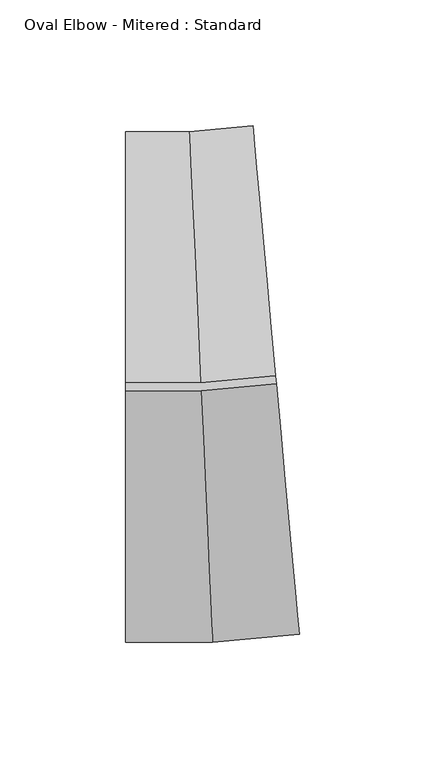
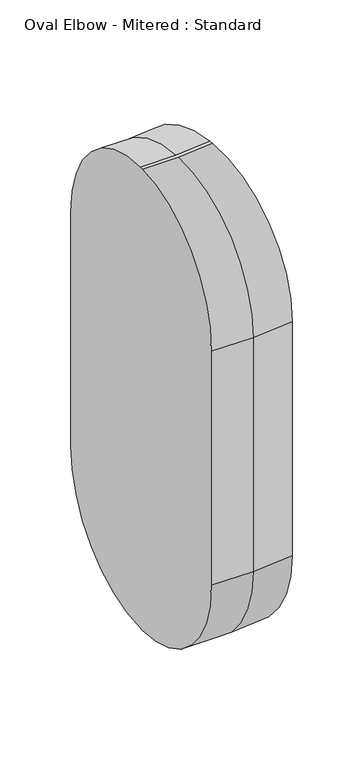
"""IFC4 building model written with IfcOpenShell, lengths in millimetres: duct fitting geometry, Oval Elbow - Mitered : Standard."""

import ifcopenshell
import ifcopenshell.guid

model = None  # the IFC model being written
_history = None  # IfcOwnerHistory: only IFC2X3 demands one
_inside = {}  # id of a spatial element -> (the spatial element, [elements in it])
_under = {}  # id of a project, library or spatial element -> (it, [spatial elements below it])
_declared = {}  # id of a project -> (the project, [libraries it declares])
_typed = {}  # id of a type object -> (the type object, [elements of that type])
_made_of = {}  # id of a material, layer set ... -> (it, [elements and type objects made of it])


def new_model(schema):
    """Start an empty IFC model of exactly this schema.

    Asked for "IFC4X3", IfcOpenShell would pick the latest addendum, in which some entities
    have other attributes; the version numbers below select the first issue.
    IFC2X3 requires an IfcOwnerHistory on every rooted entity: one is made here for all.
    """
    global model, _history
    if schema == "IFC4X3":
        model = ifcopenshell.file(schema_version=(4, 3, 0, 0))
    else:
        model = ifcopenshell.file(schema=schema)
    _inside.clear()
    _under.clear()
    _declared.clear()
    _typed.clear()
    _made_of.clear()
    _history = None
    if model.schema == "IFC2X3":
        org = make("IfcOrganization", Name="unknown")
        user = make(
            "IfcPersonAndOrganization",
            ThePerson=make("IfcPerson", FamilyName="unknown"),
            TheOrganization=org,
        )
        app = make(
            "IfcApplication",
            ApplicationDeveloper=org,
            Version="unknown",
            ApplicationFullName="unknown",
            ApplicationIdentifier="unknown",
        )
        _history = make(
            "IfcOwnerHistory",
            OwningUser=user,
            OwningApplication=app,
            ChangeAction="ADDED",
            CreationDate=0,
        )
    return model


def make(cls, **values):
    """One entity of the class cls with the attributes given. An attribute that is None is left unset."""
    return model.create_entity(
        cls, **{name: value for name, value in values.items() if value is not None}
    )


def rooted(cls, **values):
    """An entity with a GlobalId (a new one), such as an element, a storey or a relation."""
    return make(cls, GlobalId=ifcopenshell.guid.new(), OwnerHistory=_history, **values)


def si_unit(unit_type, name, prefix=None):
    """IfcSIUnit, for example si_unit("LENGTHUNIT", "METRE", prefix="MILLI")."""
    return make("IfcSIUnit", UnitType=unit_type, Prefix=prefix, Name=name)


def assignment(units):
    """IfcUnitAssignment: the units of a project."""
    return None if units is None else make("IfcUnitAssignment", Units=units)


def point(xyz):
    """IfcCartesianPoint."""
    return None if xyz is None else make("IfcCartesianPoint", Coordinates=xyz)


def direction(xyz):
    """IfcDirection."""
    return None if xyz is None else make("IfcDirection", DirectionRatios=xyz)


def frame(location, z_axis=None, x_axis=None):
    """IfcAxis2Placement3D, a coordinate frame: its origin and axes. An axis left out is left unset."""
    return make(
        "IfcAxis2Placement3D",
        Location=point(location),
        Axis=direction(z_axis),
        RefDirection=direction(x_axis),
    )


def origin():
    """The frame at (0, 0, 0) with its axes left unset."""
    return frame((0.0, 0.0, 0.0))


def place(relative_to, where):
    """IfcLocalPlacement: puts the frame where relative to a parent placement (None: the world)."""
    return make(
        "IfcLocalPlacement", PlacementRelTo=relative_to, RelativePlacement=where
    )


def context(
    kind, dimensions, precision=None, world=None, true_north=None, identifier=None
):
    """IfcGeometricRepresentationContext, for example the 3D "Model" context."""
    return make(
        "IfcGeometricRepresentationContext",
        ContextIdentifier=identifier,
        ContextType=kind,
        CoordinateSpaceDimension=dimensions,
        Precision=precision,
        WorldCoordinateSystem=world,
        TrueNorth=true_north,
    )


def project(units=None, contexts=None):
    """IfcProject with its units and contexts."""
    return rooted(
        "IfcProject",
        Name="project",
        RepresentationContexts=contexts,
        UnitsInContext=assignment(units),
    )


def spatial(cls, under=None, at=None, **own):
    """A site, building, storey or space (cls), placed at a placement, below another one or the project."""
    s = rooted(cls, ObjectPlacement=at, **own)
    if under is not None:
        _under.setdefault(under.id(), (under, []))[1].append(s)
    return s


def circle_curve(where, radius):
    """IfcCircle in the frame where."""
    return make("IfcCircle", Position=where, Radius=radius)


def ellipse_curve(where, semi_axis1, semi_axis2):
    """IfcEllipse in the frame where."""
    return make(
        "IfcEllipse", Position=where, SemiAxis1=semi_axis1, SemiAxis2=semi_axis2
    )


def shape(context_of_items, identifier, shape_type, items):
    """IfcShapeRepresentation: the items that make up one representation, for example the "Body"."""
    return make(
        "IfcShapeRepresentation",
        ContextOfItems=context_of_items,
        RepresentationIdentifier=identifier,
        RepresentationType=shape_type,
        Items=items,
    )


def source(mapping_origin, context_of_items, identifier, shape_type, items):
    """IfcRepresentationMap: a shape defined once, which mapped items show again and again."""
    return make(
        "IfcRepresentationMap",
        MappingOrigin=mapping_origin,
        MappedRepresentation=shape(context_of_items, identifier, shape_type, items),
    )


def transform(
    local_origin,
    x_axis=None,
    y_axis=None,
    z_axis=None,
    scale=None,
    scale2=None,
    scale3=None,
    uniform=True,
):
    """IfcCartesianTransformationOperator3D, or its non-uniform kind. x_axis, y_axis, z_axis: its Axis1, 2, 3."""
    if uniform:
        return make(
            "IfcCartesianTransformationOperator3D",
            Axis1=direction(x_axis),
            Axis2=direction(y_axis),
            LocalOrigin=point(local_origin),
            Scale=scale,
            Axis3=direction(z_axis),
        )
    return make(
        "IfcCartesianTransformationOperator3DnonUniform",
        Axis1=direction(x_axis),
        Axis2=direction(y_axis),
        LocalOrigin=point(local_origin),
        Scale=scale,
        Axis3=direction(z_axis),
        Scale2=scale2,
        Scale3=scale3,
    )


def mapped(mapping_source, mapping_target):
    """IfcMappedItem: shows the shape of a source again, moved by a transform."""
    return make(
        "IfcMappedItem", MappingSource=mapping_source, MappingTarget=mapping_target
    )


def made_of(thing, what):
    """Note that an element or type object is made of a material, layer set ...; save() writes the relation."""
    if what is not None:
        _made_of.setdefault(what.id(), (what, []))[1].append(thing)
    return thing


def element(
    cls,
    number,
    at=None,
    inside=None,
    cuts=None,
    type_object=None,
    material=None,
    context=None,
    identifier="Body",
    shape_type=None,
    held_by="IfcProductDefinitionShape",
    body=None,
    shapes=None,
    **own,
):
    """One element of the class cls, such as IfcWall. Its Tag is "e" and its number.

    at: its placement. inside: the storey or other place that contains it. cuts: it is an
    opening in that element (IfcRelVoidsElement). A single representation is given by context,
    identifier, shape_type and body (its items); several are given by shapes. held_by: the class
    of the entity that holds the representations. save() writes the other relations.
    """
    e = rooted(cls, Tag="e%d" % number, ObjectPlacement=at, **own)
    if body is not None:
        shapes = [shape(context, identifier, shape_type, body)]
    if shapes is not None:
        e.Representation = make(held_by, Representations=shapes)
    if inside is not None:
        _inside.setdefault(inside.id(), (inside, []))[1].append(e)
    if cuts is not None:
        rooted(
            "IfcRelVoidsElement", RelatingBuildingElement=cuts, RelatedOpeningElement=e
        )
    if type_object is not None:
        _typed.setdefault(type_object.id(), (type_object, []))[1].append(e)
    return made_of(e, material)


def aggregate(whole, parts):
    """IfcRelAggregates: a whole, such as a stair, and the parts it consists of."""
    return rooted("IfcRelAggregates", RelatingObject=whole, RelatedObjects=parts)


def save(model, path):
    """Write the relations noted so far, then the file.

    IfcRelAggregates (storeys below a building ...), IfcRelContainedInSpatialStructure (elements
    in a storey), IfcRelDefinesByType, IfcRelAssociatesMaterial and IfcRelDeclares: one each for
    every whole, place, type object, material and project.
    """
    for whole, parts in _under.values():
        aggregate(whole, parts)
    for where, things in _inside.values():
        rooted(
            "IfcRelContainedInSpatialStructure",
            RelatedElements=things,
            RelatingStructure=where,
        )
    for kind, things in _typed.values():
        rooted("IfcRelDefinesByType", RelatedObjects=things, RelatingType=kind)
    for what, things in _made_of.values():
        rooted("IfcRelAssociatesMaterial", RelatedObjects=things, RelatingMaterial=what)
    for by, libraries in _declared.values():
        rooted("IfcRelDeclares", RelatingContext=by, RelatedDefinitions=libraries)
    model.write(path)


def plane_surface(at):
    """IfcPlane: the flat surface through the origin of the frame at, square to its z axis."""
    return make("IfcPlane", Position=at)


def cylinder_surface(at, radius):
    """IfcCylindricalSurface: all points at the distance radius from the z axis of the frame at."""
    return make("IfcCylindricalSurface", Position=at, Radius=radius)


def advanced_brep(points, edges, surfaces, faces):
    """IfcAdvancedBrep: a solid bounded by faces that lie on surfaces and meet in shared edges.

    An edge is (start, end): straight between two places in points (the first is 0);
    or (start, end, curve); or (start, end, curve, False) where it runs against its curve.
    A face is (place in surfaces, loops), or (place, loops, False) where it looks against
    its surface's normal. A loop lists edges by number (the first is 1), with a minus sign
    where the edge is run from its end to its start. The first loop is the outer one.
    """
    corners = [point(p) for p in points]
    vertices = [make("IfcVertexPoint", VertexGeometry=c) for c in corners]
    made = []
    for start, end, *more in edges:
        made.append(
            make(
                "IfcEdgeCurve",
                EdgeStart=vertices[start],
                EdgeEnd=vertices[end],
                EdgeGeometry=more[0] if more else make("IfcPolyline", Points=[corners[start], corners[end]]),
                SameSense=more[1] if len(more) > 1 else True,
            )
        )
    hull = []
    for where, loops, *sense in faces:
        bounds = []
        for j, loop in enumerate(loops):
            ring = [make("IfcOrientedEdge", EdgeElement=made[abs(k) - 1], Orientation=k > 0) for k in loop]
            bounds.append(
                make(
                    "IfcFaceOuterBound" if j == 0 else "IfcFaceBound",
                    Bound=make("IfcEdgeLoop", EdgeList=ring),
                    Orientation=True,
                )
            )
        hull.append(make("IfcAdvancedFace", Bounds=bounds, FaceSurface=surfaces[where], SameSense=sense[0] if sense else True))
    return make("IfcAdvancedBrep", Outer=make("IfcClosedShell", CfsFaces=hull))


def oval_elbow_mitered_standard_605f781d(model_context):
    return source(origin(), model_context, "Body", "AdvancedBrep", [
        advanced_brep(
        [(-30.0333546, -1.5875, 203.2), (-30.0333546, 1.5875, 203.2), (-30.0333546, 101.6, 103.1875), (-30.0333546, 101.6, -103.1875), (-30.0333546, 1.5875, -203.2), (-30.0333546, -1.5875, -203.2), (-30.0333546, -101.6, -103.1875), (-30.0333546, -101.6, 103.1875), (0.0723962, -1.5875, 203.2), (30.0531841, 1.1526795, 203.2), (29.7642005, 4.3145008, 203.2), (-0.0723962, 1.5875, 203.2), (-4.6333546, 101.6, 103.1875), (-4.6333546, 101.6, -103.1875), (-0.0723962, 1.5875, -203.2), (29.7642005, 4.3145008, -203.2), (30.0531841, 1.1526795, -203.2), (0.0723962, -1.5875, -203.2), (4.6333546, -101.6, -103.1875), (4.6333546, -101.6, 103.1875), (39.1561694, -98.444689, 103.1875), (39.1561694, -98.444689, -103.1875), (20.6612152, 103.9118693, -103.1875), (20.6612152, 103.9118693, 103.1875)],
        [
            (0, 1),
            (1, 2, circle_curve(frame((-30.0333546, 1.5875, 103.1875), z_axis=(-1.0, 0.0, 0.0), x_axis=(0.0, 1.0, 0.0)), 100.0125)),
            (2, 3),
            (3, 4, circle_curve(frame((-30.0333546, 1.5875, -103.1875), z_axis=(-1.0, 0.0, 0.0), x_axis=(0.0, 1.0, 0.0)), 100.0125)),
            (4, 5),
            (5, 6, circle_curve(frame((-30.0333546, -1.5875, -103.1875), z_axis=(-1.0, 0.0, 0.0), x_axis=(0.0, 1.0, 0.0)), 100.0125)),
            (6, 7),
            (7, 0, circle_curve(frame((-30.0333546, -1.5875, 103.1875), z_axis=(-1.0, 0.0, 0.0), x_axis=(0.0, 1.0, 0.0)), 100.0125)),
            (0, 8),
            (8, 9),
            (9, 10),
            (10, 11),
            (11, 1),
            (11, 12, ellipse_curve(frame((-0.0723962, 1.5875, 103.1875), z_axis=(-0.9989617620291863, -0.045556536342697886, 0.0), x_axis=(-0.045556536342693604, 0.9989617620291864, 0.0)), 100.1164447, 100.0125)),
            (12, 2),
            (12, 13),
            (13, 3),
            (13, 14, ellipse_curve(frame((-0.0723962, 1.5875, -103.1875), z_axis=(-0.9989617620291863, -0.045556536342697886, 0.0), x_axis=(-0.045556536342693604, 0.9989617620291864, 0.0)), 100.1164447, 100.0125)),
            (14, 4),
            (14, 15),
            (15, 16),
            (16, 17),
            (17, 5),
            (17, 18, ellipse_curve(frame((0.0723962, -1.5875, -103.1875), z_axis=(-0.9989617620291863, -0.045556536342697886, 0.0), x_axis=(-0.045556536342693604, 0.9989617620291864, 0.0)), 100.1164447, 100.0125)),
            (18, 6),
            (18, 19),
            (19, 7),
            (19, 8, ellipse_curve(frame((0.0723962, -1.5875, 103.1875), z_axis=(-0.9989617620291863, -0.045556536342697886, 0.0), x_axis=(-0.045556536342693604, 0.9989617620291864, 0.0)), 100.1164447, 100.0125)),
            (9, 20, circle_curve(frame((30.0531841, 1.1526795, 103.1875), z_axis=(0.9958492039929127, 0.09101847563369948, 0.0), x_axis=(-0.09101847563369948, 0.9958492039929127, 0.0)), 100.0125)),
            (20, 21),
            (21, 16, circle_curve(frame((30.0531841, 1.1526795, -103.1875), z_axis=(0.9958492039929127, 0.09101847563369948, 0.0), x_axis=(-0.09101847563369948, 0.9958492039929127, 0.0)), 100.0125)),
            (15, 22, circle_curve(frame((29.7642005, 4.3145008, -103.1875), z_axis=(0.9958492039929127, 0.09101847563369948, 0.0), x_axis=(-0.09101847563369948, 0.9958492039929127, 0.0)), 100.0125)),
            (22, 23),
            (23, 10, circle_curve(frame((29.7642005, 4.3145008, 103.1875), z_axis=(0.9958492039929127, 0.09101847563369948, 0.0), x_axis=(-0.09101847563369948, 0.9958492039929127, 0.0)), 100.0125)),
            (23, 12),
            (22, 13),
            (21, 18),
            (20, 19),
        ],
        [
            plane_surface(frame((-30.0333546, 0.0, 0.0), z_axis=(-1.0, 0.0, 0.0), x_axis=(0.0, 0.0, 1.0))),
            plane_surface(frame((-30.0333546, -1.5875, 203.2), z_axis=(0.0, 0.0, 1.0), x_axis=(1.0, 0.0, 0.0))),
            cylinder_surface(frame((-30.0333546, 1.5875, 103.1875), z_axis=(-1.0, 0.0, 0.0), x_axis=(0.0, 1.0, 0.0)), 100.0125),
            plane_surface(frame((-30.0333546, 101.6, 103.1875), z_axis=(0.0, 1.0, 0.0), x_axis=(1.0, 0.0, 0.0))),
            cylinder_surface(frame((-30.0333546, 1.5875, -103.1875), z_axis=(-1.0, 0.0, 0.0), x_axis=(0.0, 1.0, 0.0)), 100.0125),
            plane_surface(frame((-30.0333546, 1.5875, -203.2), z_axis=(0.0, 0.0, -1.0), x_axis=(1.0, 0.0, 0.0))),
            cylinder_surface(frame((-30.0333546, -1.5875, -103.1875), z_axis=(-1.0, 0.0, 0.0), x_axis=(0.0, 1.0, 0.0)), 100.0125),
            plane_surface(frame((-30.0333546, -101.6, -103.1875), z_axis=(0.0, -1.0, 0.0), x_axis=(1.0, 0.0, 0.0))),
            cylinder_surface(frame((-30.0333546, -1.5875, 103.1875), z_axis=(-1.0, 0.0, 0.0), x_axis=(0.0, 1.0, 0.0)), 100.0125),
            plane_surface(frame((29.9086923, 2.7335902, 0.0), z_axis=(0.9958492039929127, 0.09101847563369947, 0.0), x_axis=(0.0, 0.0, 1.0))),
            cylinder_surface(frame((-0.1444918, 1.5809106, 103.1875), z_axis=(-0.9958492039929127, -0.09101847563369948, 0.0), x_axis=(-0.09101847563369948, 0.9958492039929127, 0.0)), 100.0125),
            plane_surface(frame((-4.6333546, 101.6, 103.1875), z_axis=(-0.0910184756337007, 0.9958492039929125, 0.0), x_axis=(0.9958492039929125, 0.0910184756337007, 0.0))),
            cylinder_surface(frame((-0.1444918, 1.5809106, -103.1875), z_axis=(-0.9958492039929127, -0.09101847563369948, 0.0), x_axis=(-0.09101847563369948, 0.9958492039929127, 0.0)), 100.0125),
            cylinder_surface(frame((0.1444918, -1.5809106, -103.1875), z_axis=(-0.9958492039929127, -0.09101847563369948, 0.0), x_axis=(-0.09101847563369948, 0.9958492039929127, 0.0)), 100.0125),
            plane_surface(frame((4.6333546, -101.6, -103.1875), z_axis=(0.09101847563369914, -0.9958492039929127, 0.0), x_axis=(0.9958492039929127, 0.09101847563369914, 0.0))),
            cylinder_surface(frame((0.1444918, -1.5809106, 103.1875), z_axis=(-0.9958492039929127, -0.09101847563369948, 0.0), x_axis=(-0.09101847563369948, 0.9958492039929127, 0.0)), 100.0125),
        ],
        [
            (0, [[1, 2, 3, 4, 5, 6, 7, 8]]),
            (1, [[-1, 9, 10, 11, 12, 13]]),
            (2, [[-2, -13, 14, 15]]),
            (3, [[-3, -15, 16, 17]]),
            (4, [[-4, -17, 18, 19]]),
            (5, [[-5, -19, 20, 21, 22, 23]]),
            (6, [[-6, -23, 24, 25]]),
            (7, [[-7, -25, 26, 27]]),
            (8, [[-8, -27, 28, -9]]),
            (9, [[29, 30, 31, -21, 32, 33, 34, -11]]),
            (10, [[-14, -12, -34, 35]]),
            (11, [[-16, -35, -33, 36]]),
            (12, [[-18, -36, -32, -20]]),
            (13, [[-24, -22, -31, 37]]),
            (14, [[-26, -37, -30, 38]]),
            (15, [[-28, -38, -29, -10]]),
        ],
    ),
    ])


if __name__ == "__main__":
    model = new_model("IFC4")
    model_context = context("Model", 3, world=origin())
    ifc_project = project(units=[si_unit("LENGTHUNIT", "METRE", prefix="MILLI")], contexts=[model_context])
    site = spatial("IfcSite", under=ifc_project)
    building = spatial("IfcBuilding", under=site)
    placement = place(None, origin())
    oval_elbow_mitered_standard_shape = oval_elbow_mitered_standard_605f781d(model_context)
    element("IfcDuctFitting", 1, ObjectType="Oval Elbow - Mitered : Standard", at=placement, inside=building, context=model_context, shape_type="MappedRepresentation", body=[
        mapped(oval_elbow_mitered_standard_shape, transform((0.0, 0.0, 0.0), x_axis=(1.0, 0.0, 0.0), y_axis=(0.0, 1.0, 0.0), z_axis=(0.0, 0.0, 1.0))),
    ])
    save(model, "model.ifc")
